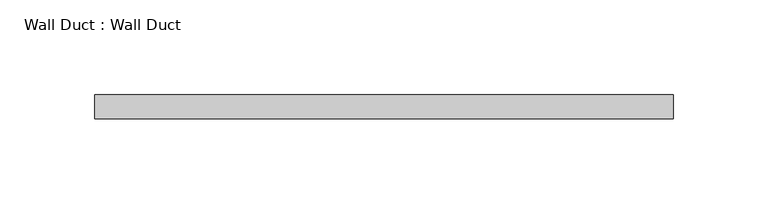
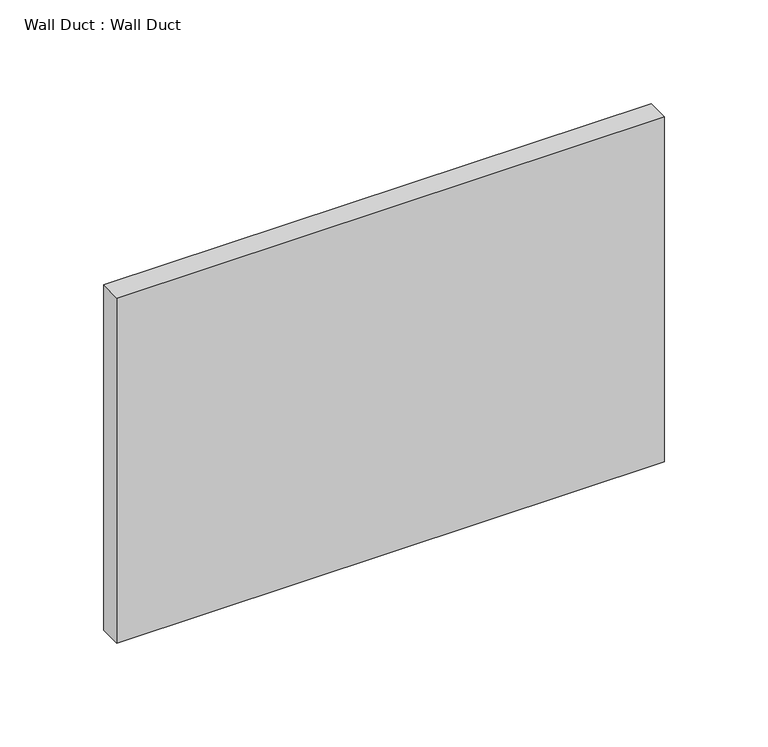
"""IFC4 building model written with IfcOpenShell, lengths in millimetres: proxy geometry, Wall Duct : Wall Duct."""

from ifc_helpers import new_model, si_unit, origin, origin_with_axes, place, context, project, spatial, polyline, outline, extrude, source, transform, mapped, element, save


def wall_duct_wall_duct_2bb27d55(model_context):
    return source(origin(), model_context, "Body", "SweptSolid", [
        extrude(outline(polyline([(152.4, 0.0), (152.4, -12.7), (-152.4, -12.7), (-152.4, 0.0), (152.4, 0.0)])), origin_with_axes(), (0.0, 0.0, 1.0), 203.2),
    ])


if __name__ == "__main__":
    model = new_model("IFC4")
    model_context = context("Model", 3, world=origin())
    ifc_project = project(units=[si_unit("LENGTHUNIT", "METRE", prefix="MILLI")], contexts=[model_context])
    site = spatial("IfcSite", under=ifc_project)
    building = spatial("IfcBuilding", under=site)
    placement = place(None, origin())
    wall_duct_wall_duct_shape = wall_duct_wall_duct_2bb27d55(model_context)
    element("IfcBuildingElementProxy", 1, Name="Wall Duct : Wall Duct", ObjectType="Wall Duct : Wall Duct", at=placement, inside=building, context=model_context, shape_type="MappedRepresentation", body=[
        mapped(wall_duct_wall_duct_shape, transform((0.0, 0.0, 0.0), x_axis=(1.0, 0.0, 0.0), y_axis=(0.0, 1.0, 0.0), z_axis=(0.0, 0.0, 1.0))),
    ])
    save(model, "model.ifc")
